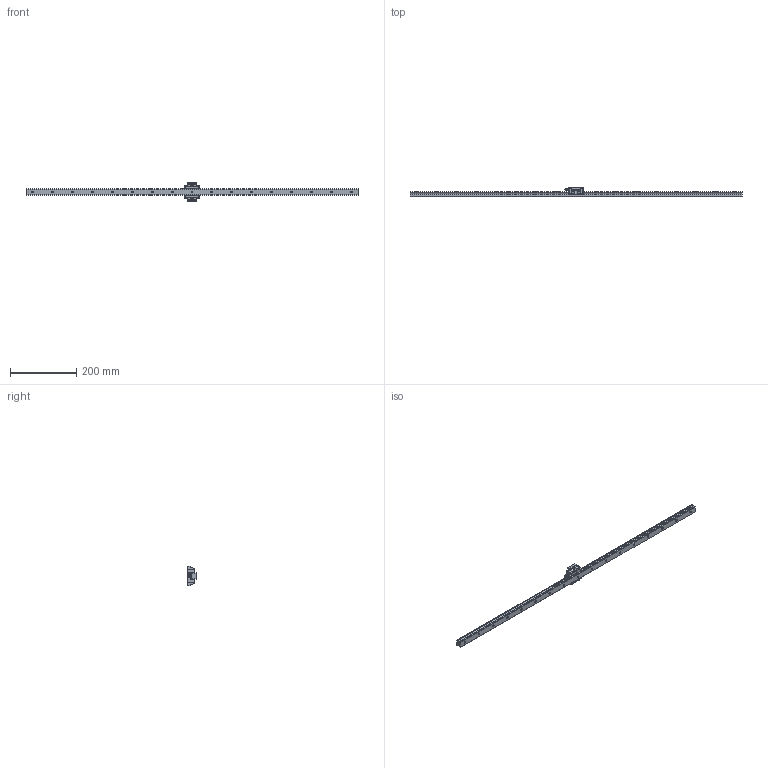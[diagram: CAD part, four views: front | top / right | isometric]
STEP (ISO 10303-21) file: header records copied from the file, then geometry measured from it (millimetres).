
FILE_DESCRIPTION(/* description */ ('STEP AP214'),/* implementation_level */ '2;1');
FILE_NAME(/* name */ 'SR20SB1SS-1000L_G20_0_B-M6F_476-35_0_0_0',/* time_stamp */ '2023-08-14T11:28:12+02:00',/* author */ ('License CC BY-ND 4.0'),/* organization */ ('CADENAS'),/* preprocessor_version */ 'ST-DEVELOPER v19.3',/* originating_system */ 'PARTsolutions',/* authorisation */ ' ');
FILE_SCHEMA (('AUTOMOTIVE_DESIGN {1 0 10303 214 3 1 1}'));
Length unit declared in the file: millimetre
Products named in the file (4): SR20SB1SS-1000L_G20_0_B-M6F_476-35_0_0_0_; SR-B-M6F_grease_nipple_joint; SR20SBSSB-M6F Slide15-150; SR20TB100020 SB Track
Assembly tree (3 placements, depth 2):
  SR20SB1SS-1000L_G20_0_B-M6F_476-35_0_0_0_
    SR-B-M6F_grease_nipple_joint
    SR20SBSSB-M6F Slide15-150
    SR20TB100020 SB Track
Bounding box: 1000 x 28 x 59 mm (x, y, z)
Volume: 300786.3 mm3; surface area: 91503.9 mm2
Topology: 3 solids, 3 shells, 253 faces, 668 edges, 439 vertices
Faces by surface type: plane 171, cylinder 64, cone 13, sphere 3, torus 2
Full cylindrical faces by diameter (mm): 4.917 x2, 5.5 x2, 6 x18, 8 x1, 9.5 x17
Entity records: 7697 total; most frequent: CARTESIAN_POINT 1414, DIRECTION 1248, ORIENTED_EDGE 1216, EDGE_CURVE 608, VERTEX_POINT 433, LINE 426, VECTOR 426, AXIS2_PLACEMENT_3D 411
